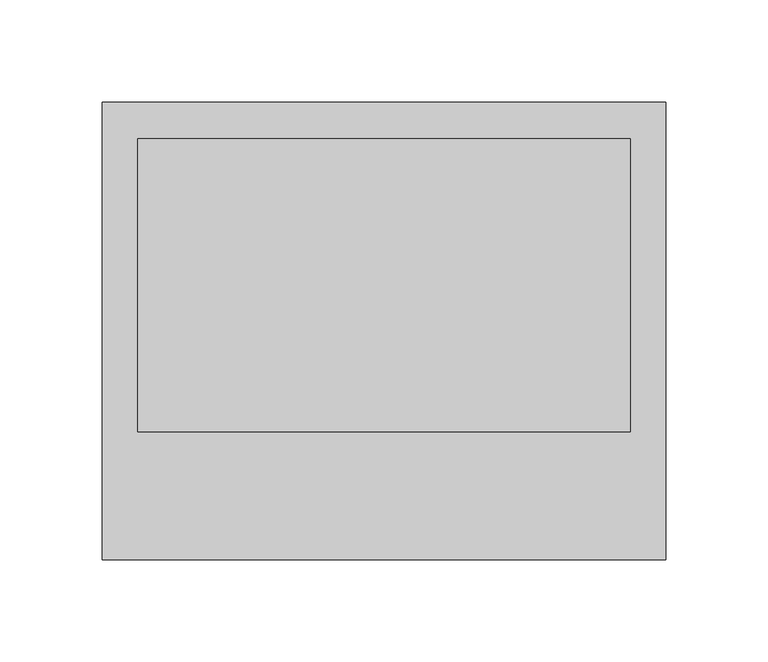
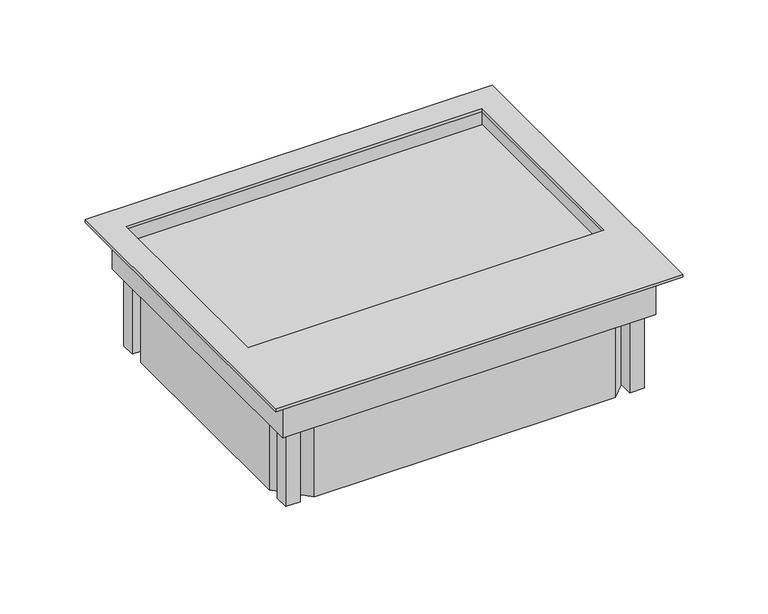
"""IFC4 building model written with IfcOpenShell, lengths in millimetres: proxy geometry, Electrical_Installation_Hager_VE-EE_Service-unit-VE09-made-of-stainless-steel : Electrical_Installation_Hager_VE-EE_Service-unit-VE09-made-of-stainless-steel."""

from ifc_helpers import new_model, si_unit, frame, origin, place, context, project, spatial, polyline, outline, extrude, faceted_brep, source, transform, mapped, element, save


def electrical_fixtures_62458b07(model_context):
    return source(origin(), model_context, "Body", "SolidModel", [
        faceted_brep([(126.5, 100.0, -30.0), (126.5, -100.0, -30.0), (-126.5, -100.0, -30.0), (-126.5, 100.0, -30.0), (121.5, -85.25, -30.0), (121.5, 85.25, -30.0), (121.5, 95.0, -30.0), (111.75, 95.0, -30.0), (-111.75, 95.0, -30.0), (-121.5, 95.0, -30.0), (-121.5, 85.25, -30.0), (-121.5, -85.25, -30.0), (-121.5, -95.0, -30.0), (-111.75, -95.0, -30.0), (111.75, -95.0, -30.0), (121.5, -95.0, -30.0), (-126.5, 100.0, 0.0), (126.5, 100.0, 0.0), (-126.5, -100.0, 0.0), (126.5, -100.0, 0.0), (121.5, 95.0, 0.0), (121.5, 95.0, -30.0), (121.5, -95.0, -30.0), (121.5, -95.0, -10.0), (121.5, -50.0, -10.0), (121.5, -50.0, 0.0), (-121.5, -50.0, 0.0), (-121.5, -50.0, -10.0), (-121.5, 95.0, -30.0), (-121.5, 95.0, 0.0), (-121.5, -95.0, -10.0), (-121.5, -95.0, -30.0), (138.0, 112.0, 2.0), (-138.0, 112.0, 2.0), (-138.0, -112.0, 2.0), (138.0, -112.0, 2.0), (120.5000057, 94.0, 2.0), (120.5000057, -49.3000031, 2.0), (-120.5000057, -49.3000031, 2.0), (-120.5000057, 94.0, 2.0), (120.5000057, 94.0, 0.0), (-120.5000057, 94.0, 0.0), (-120.5000057, -49.3000031, 0.0), (120.5000057, -49.3000031, 0.0), (138.0, 112.0, 0.0), (138.0, -112.0, 0.0), (-138.0, -112.0, 0.0), (-138.0, 112.0, 0.0), (-111.75, 85.25, -30.0), (111.75, 85.25, -30.0), (-111.75, -85.25, -30.0), (111.75, -85.25, -30.0), (-111.75, 95.0, -84.0), (-111.75, 85.25, -84.0), (-121.5, 85.25, -84.0), (-121.5, 95.0, -84.0), (121.5, 95.0, -84.0), (121.5, 85.25, -84.0), (111.75, 85.25, -84.0), (111.75, 95.0, -84.0), (-111.75, -95.0, -84.0), (-121.5, -95.0, -84.0), (-121.5, -85.25, -84.0), (-111.75, -85.25, -84.0), (121.5, -95.0, -84.0), (111.75, -95.0, -84.0), (111.75, -85.25, -84.0), (121.5, -85.25, -84.0)], [[[0, 1, 2, 3], [4, 5, 6, 7, 8, 9, 10, 11, 12, 13, 14, 15]], [[0, 3, 16, 17]], [[3, 2, 18, 16]], [[2, 1, 19, 18]], [[1, 0, 17, 19]], [[20, 21, 5, 4, 22, 23, 24, 25]], [[26, 25, 24, 27]], [[28, 29, 26, 27, 30, 31, 11, 10]], [[21, 20, 29, 28, 8, 7]], [[24, 23, 30, 27]], [[30, 23, 22, 14, 13, 31]], [[32, 33, 34, 35], [36, 37, 38, 39]], [[20, 25, 26, 29], [40, 41, 42, 43]], [[44, 45, 46, 47], [17, 16, 18, 19]], [[36, 39, 41, 40]], [[39, 38, 42, 41]], [[38, 37, 43, 42]], [[37, 36, 40, 43]], [[33, 32, 44, 47]], [[34, 33, 47, 46]], [[35, 34, 46, 45]], [[32, 35, 45, 44]], [[10, 48, 8, 28]], [[7, 49, 5, 21]], [[13, 50, 11, 31]], [[4, 51, 14, 22]], [[52, 53, 54, 55]], [[56, 57, 58, 59]], [[60, 61, 62, 63]], [[64, 65, 66, 67]], [[52, 55, 9, 8]], [[55, 54, 10, 9]], [[48, 10, 54, 53]], [[8, 48, 53, 52]], [[56, 59, 7, 6]], [[49, 7, 59, 58]], [[5, 49, 58, 57]], [[57, 56, 6, 5]], [[50, 13, 60, 63]], [[11, 50, 63, 62]], [[62, 61, 12, 11]], [[61, 60, 13, 12]], [[64, 67, 4, 15]], [[51, 4, 67, 66]], [[14, 51, 66, 65]], [[65, 64, 15, 14]]]),
        extrude(outline(polyline([(-121.5, -75.5), (-121.5, 75.5), (-102.0, 95.0), (102.0, 95.0), (121.5, 75.5), (121.5, -75.5), (102.0, -95.0), (-102.0, -95.0), (-121.5, -75.5)]), holes=[polyline([(-116.5, -73.4289322), (-99.9289322, -90.0), (99.9289322, -90.0), (116.5, -73.4289322), (116.5, 73.4289322), (99.9289322, 90.0), (-99.9289322, 90.0), (-116.5, 73.4289322), (-116.5, -73.4289322)])]), frame((0.0, 0.0, -84.0), z_axis=(0.0, 0.0, 1.0), x_axis=(1.0, 0.0, 0.0)), (0.0, 0.0, 1.0), 54.0),
        extrude(outline(polyline([(-121.5, -95.0), (-121.5, 95.0), (121.5, 95.0), (121.5, -95.0), (-121.5, -95.0)])), frame((0.0, 0.0, -15.0), z_axis=(0.0, 0.0, 1.0), x_axis=(1.0, 0.0, 0.0)), (0.0, 0.0, 1.0), 5.0),
    ])


if __name__ == "__main__":
    model = new_model("IFC4")
    model_context = context("Model", 3, world=origin())
    ifc_project = project(units=[si_unit("LENGTHUNIT", "METRE", prefix="MILLI")], contexts=[model_context])
    site = spatial("IfcSite", under=ifc_project)
    building = spatial("IfcBuilding", under=site)
    placement = place(None, origin())
    electrical_fixtures_shape = electrical_fixtures_62458b07(model_context)
    element("IfcBuildingElementProxy", 1, Name="Electrical_Installation_Hager_VE-EE_Service-unit-VE09-made-of-stainless-steel : Electrical_Installation_Hager_VE-EE_Service-unit-VE09-made-of-stainless-steel", ObjectType="Electrical_Installation_Hager_VE-EE_Service-unit-VE09-made-of-stainless-steel : Electrical_Installation_Hager_VE-EE_Service-unit-VE09-made-of-stainless-steel", at=placement, inside=building, context=model_context, shape_type="MappedRepresentation", body=[
        mapped(electrical_fixtures_shape, transform((0.0, 0.0, 0.0), x_axis=(1.0, 0.0, 0.0), y_axis=(0.0, 1.0, 0.0), z_axis=(0.0, 0.0, 1.0))),
    ])
    save(model, "model.ifc")
